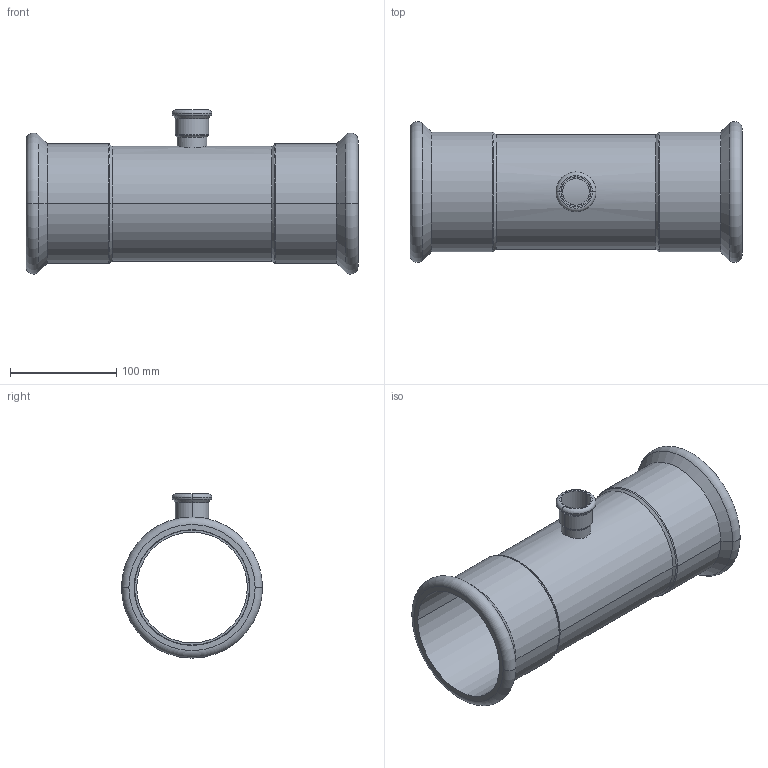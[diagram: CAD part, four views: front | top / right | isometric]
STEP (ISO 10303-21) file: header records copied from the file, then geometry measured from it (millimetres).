
FILE_DESCRIPTION(('CoCreate Modeling STEP Export'),'2;1');
FILE_NAME('C1415 108x28x108.stp','2014-11-12T10:56:50',(''),(''),'CoCreate Modeling STEP processor for AP214 (Solid Model)','CoCreate Modeling 17.00A 17-Jun-2010 (C) Parametric Technology GmbH','');
FILE_SCHEMA(('AUTOMOTIVE_DESIGN { 1 0 10303 214 1 1 1 1 }'));
Length unit declared in the file: millimetre
Products named in the file (2): C1415_108x28x108
Assembly tree (1 placements, depth 2):
  C1415_108x28x108
    C1415_108x28x108
Bounding box: 312 x 132.58 x 154.29 mm (x, y, z)
Volume: 326576.1 mm3; surface area: 233553.9 mm2
Topology: 1 solids, 1 shells, 65 faces, 133 edges, 79 vertices
Faces by surface type: cylinder 29, torus 14, cone 12, plane 10
Entity records: 2575 total; most frequent: CARTESIAN_POINT 1357, ORIENTED_EDGE 266, DIRECTION 216, EDGE_CURVE 133, AXIS2_PLACEMENT_3D 88, VERTEX_POINT 79, EDGE_LOOP 76, FACE_OUTER_BOUND 65
